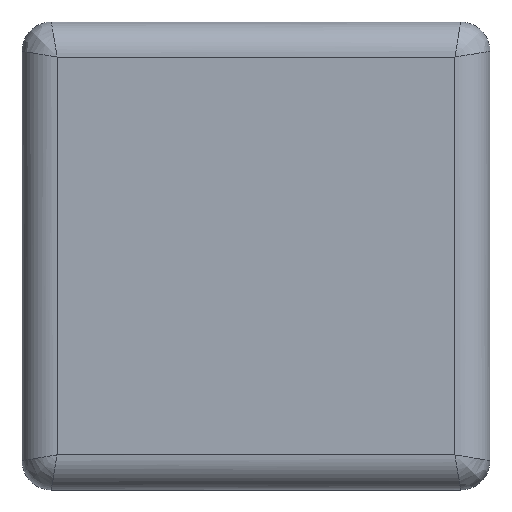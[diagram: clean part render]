
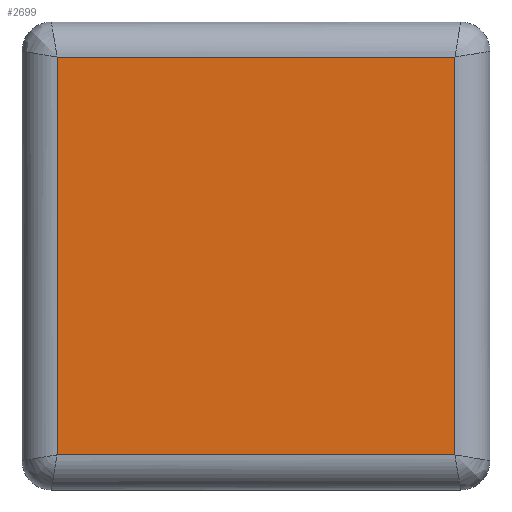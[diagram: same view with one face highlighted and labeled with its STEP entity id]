
A CAD part, top view. The second image highlights one B-rep face of the part: STEP entity #2699.
In plain terms, the highlighted planar face has unit normal (0, 0, 1).
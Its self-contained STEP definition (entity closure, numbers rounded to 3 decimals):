
#50 = VERTEX_POINT ( 'NONE', #3017 ) ;
#58 = EDGE_CURVE ( 'NONE', #966, #1779, #1800, .T. ) ;
#186 = CARTESIAN_POINT ( 'NONE',  ( 17., -17.5, 0. ) ) ;
#218 = CARTESIAN_POINT ( 'NONE',  ( -17., -17.5, 0. ) ) ;
#302 = DIRECTION ( 'NONE',  ( -1., 0., 0. ) ) ;
#336 = EDGE_CURVE ( 'NONE', #50, #966, #403, .T. ) ;
#403 = LINE ( 'NONE', #639, #1250 ) ;
#498 = VERTEX_POINT ( 'NONE', #1118 ) ;
#634 = ORIENTED_EDGE ( 'NONE', *, *, #2681, .T. ) ;
#639 = CARTESIAN_POINT ( 'NONE',  ( 17.5, -17., 0. ) ) ;
#709 = VECTOR ( 'NONE', #1826, 1000. ) ;
#961 = AXIS2_PLACEMENT_3D ( 'NONE', #1740, #2435, #1053 ) ;
#966 = VERTEX_POINT ( 'NONE', #2750 ) ;
#1053 = DIRECTION ( 'NONE',  ( 1., 0., 0. ) ) ;
#1118 = CARTESIAN_POINT ( 'NONE',  ( -17., 17., 0. ) ) ;
#1157 = VECTOR ( 'NONE', #1161, 1000. ) ;
#1161 = DIRECTION ( 'NONE',  ( 0., -1., 0. ) ) ;
#1209 = LINE ( 'NONE', #2849, #1494 ) ;
#1210 = EDGE_CURVE ( 'NONE', #498, #50, #1673, .T. ) ;
#1250 = VECTOR ( 'NONE', #1541, 1000. ) ;
#1494 = VECTOR ( 'NONE', #302, 1000. ) ;
#1517 = ORIENTED_EDGE ( 'NONE', *, *, #1210, .T. ) ;
#1541 = DIRECTION ( 'NONE',  ( 1., 0., 0. ) ) ;
#1585 = ORIENTED_EDGE ( 'NONE', *, *, #58, .T. ) ;
#1673 = LINE ( 'NONE', #218, #1157 ) ;
#1740 = CARTESIAN_POINT ( 'NONE',  ( 17.5, -17.5, 0. ) ) ;
#1779 = VERTEX_POINT ( 'NONE', #2924 ) ;
#1800 = LINE ( 'NONE', #186, #709 ) ;
#1826 = DIRECTION ( 'NONE',  ( 0., 1., 0. ) ) ;
#2108 = EDGE_LOOP ( 'NONE', ( #2206, #1585, #634, #1517 ) ) ;
#2206 = ORIENTED_EDGE ( 'NONE', *, *, #336, .T. ) ;
#2230 = PLANE ( 'NONE',  #961 ) ;
#2247 = FACE_OUTER_BOUND ( 'NONE', #2108, .T. ) ;
#2435 = DIRECTION ( 'NONE',  ( 0., 0., 1. ) ) ;
#2681 = EDGE_CURVE ( 'NONE', #1779, #498, #1209, .T. ) ;
#2699 = ADVANCED_FACE ( 'NONE', ( #2247 ), #2230, .T. ) ;
#2750 = CARTESIAN_POINT ( 'NONE',  ( 17., -17., 0. ) ) ;
#2849 = CARTESIAN_POINT ( 'NONE',  ( 17.5, 17., 0. ) ) ;
#2924 = CARTESIAN_POINT ( 'NONE',  ( 17., 17., 0. ) ) ;
#3017 = CARTESIAN_POINT ( 'NONE',  ( -17., -17., 0. ) ) ;
